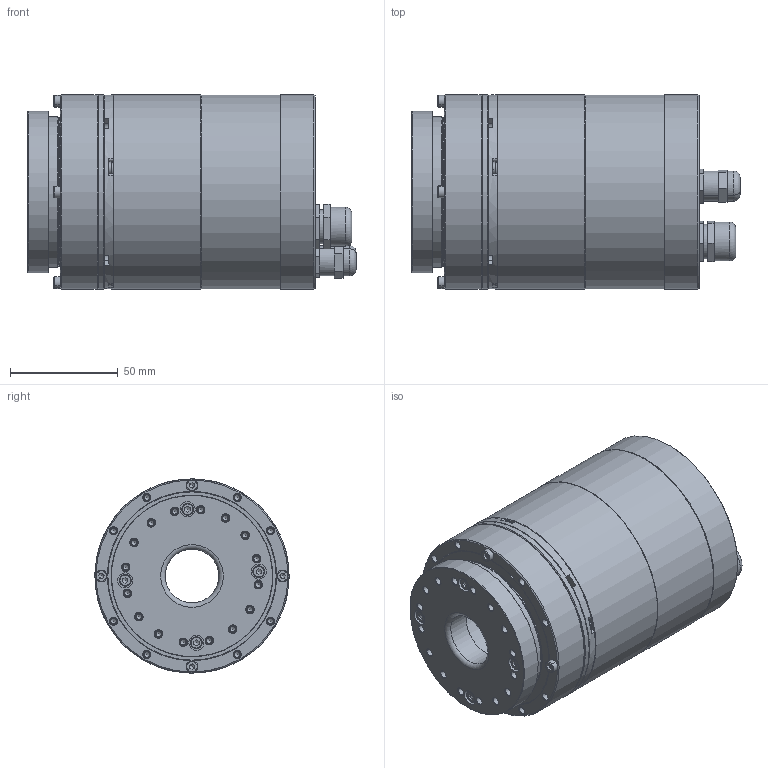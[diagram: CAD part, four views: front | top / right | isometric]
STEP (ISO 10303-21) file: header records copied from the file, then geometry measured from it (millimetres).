
FILE_DESCRIPTION( ('This file contains a STEP AP42 implementation' ,'as created by ZW3D STEP Interface translator.') ,'2;1' );
FILE_NAME( 'MIS20B壽誹耀郪.stp' ,'24 615.1844 7', (''), ('ZWCAD Software Co.'), 'Version 1.0', 'ZW3D to STEP translator', '' );
FILE_SCHEMA(('AUTOMOTIVE_DESIGN { 1 0 10303 214 1 1 1 1 }'));
Length unit declared in the file: millimetre
Products named in the file (2): 0; MIS20B壽誹耀郪
Bounding box: 152 x 90 x 90 mm (x, y, z)
Volume: 309037.4 mm3; surface area: 174420.2 mm2
Topology: 32 solids, 34 shells, 1439 faces, 3365 edges, 2080 vertices
Faces by surface type: plane 445, cylinder 423, cone 406, torus 108, sphere 32, bspline 25
Full cylindrical faces by diameter (mm): 2.5 x80, 2.874 x4, 2.9 x4, 3 x12, 3.5 x92, 4.5 x4, 5.5 x12, 5.7 x3, 6 x4, 7 x4, 8 x2, 12 x1, 16 x4, 18 x1, 25 x2, 27 x1, 28.2 x1, 50 x2, 50.71 x1, 51.865 x1, 52.063 x1, 55 x3, 56.4 x2, 59 x1, 63.3 x1, 68.6 x1, 69 x2, 70 x4, 70.1 x2, 71 x1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
Entity records: 45000 total; most frequent: CARTESIAN_POINT 9706, DIRECTION 7589, ORIENTED_EDGE 6536, EDGE_CURVE 3268, AXIS2_PLACEMENT_3D 3069, VERTEX_POINT 2046, EDGE_LOOP 1804, CIRCLE 1654
